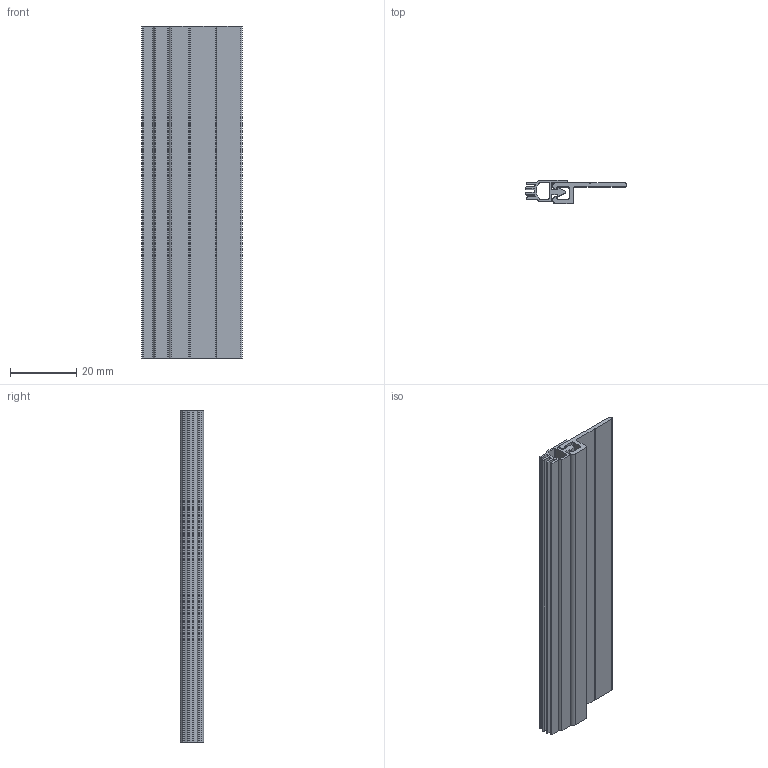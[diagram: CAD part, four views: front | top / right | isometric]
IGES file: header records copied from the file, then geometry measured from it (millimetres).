
Global section: file name: No Iges File Name specified; native system: Autodesk Inventor 2012; preprocessor: AutoDesk Inventor Iges Exporter R2012; author: anna.b; date: 20131218.094928; units: millimetre
Bounding box: 30.37 x 7 x 100 mm (x, y, z)
Volume: 7102.4 mm3; surface area: 14563.3 mm2
Topology: 2 solids, 2 shells, 82 faces, 234 edges, 156 vertices
Faces by surface type: plane 50, cylinder 22, revolution 10
